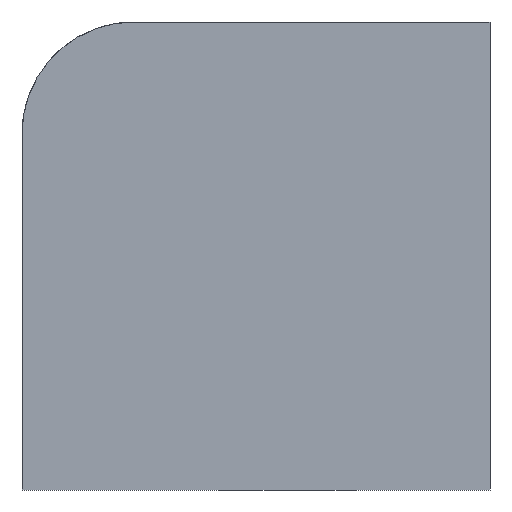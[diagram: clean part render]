
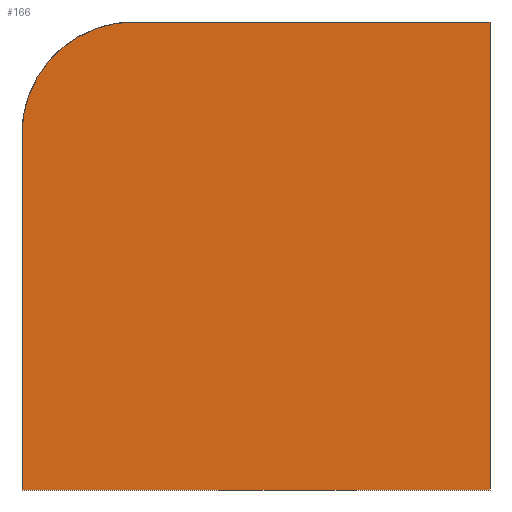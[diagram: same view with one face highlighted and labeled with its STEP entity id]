
A CAD part, front view. The second image highlights one B-rep face of the part: STEP entity #166.
In plain terms, the highlighted planar face has unit normal (0, -1, 0).
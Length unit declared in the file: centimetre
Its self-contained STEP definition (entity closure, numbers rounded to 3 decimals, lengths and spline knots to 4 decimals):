
#17 = LINE ( 'NONE', #745, #200 ) ;
#24 = DIRECTION ( 'NONE',  ( 0., 1., 0. ) ) ;
#89 = DIRECTION ( 'NONE',  ( 1., 0., 0. ) ) ;
#104 = VERTEX_POINT ( 'NONE', #1084 ) ;
#113 = FACE_OUTER_BOUND ( 'NONE', #976, .T. ) ;
#157 = VECTOR ( 'NONE', #809, 100. ) ;
#166 = ADVANCED_FACE ( 'NONE', ( #113 ), #649, .F. ) ;
#184 = CARTESIAN_POINT ( 'NONE',  ( 0., 0., 1000. ) ) ;
#200 = VECTOR ( 'NONE', #1119, 100. ) ;
#205 = VERTEX_POINT ( 'NONE', #661 ) ;
#258 = CARTESIAN_POINT ( 'NONE',  ( 1000., 0., 0. ) ) ;
#288 = CARTESIAN_POINT ( 'NONE',  ( 238.8632, 0., 761.1368 ) ) ;
#289 = EDGE_CURVE ( 'NONE', #104, #748, #917, .T. ) ;
#296 = ORIENTED_EDGE ( 'NONE', *, *, #289, .T. ) ;
#304 = VERTEX_POINT ( 'NONE', #654 ) ;
#401 = ORIENTED_EDGE ( 'NONE', *, *, #991, .F. ) ;
#425 = AXIS2_PLACEMENT_3D ( 'NONE', #288, #1121, #742 ) ;
#454 = CARTESIAN_POINT ( 'NONE',  ( 0., 0., 1000. ) ) ;
#473 = ORIENTED_EDGE ( 'NONE', *, *, #1044, .T. ) ;
#474 = VECTOR ( 'NONE', #1091, 100. ) ;
#518 = ORIENTED_EDGE ( 'NONE', *, *, #1028, .T. ) ;
#543 = LINE ( 'NONE', #709, #618 ) ;
#547 = LINE ( 'NONE', #454, #474 ) ;
#614 = VERTEX_POINT ( 'NONE', #258 ) ;
#618 = VECTOR ( 'NONE', #89, 100. ) ;
#649 = PLANE ( 'NONE',  #877 ) ;
#654 = CARTESIAN_POINT ( 'NONE',  ( 0., 0., 0. ) ) ;
#661 = CARTESIAN_POINT ( 'NONE',  ( 1000., 0., 1000. ) ) ;
#709 = CARTESIAN_POINT ( 'NONE',  ( 0., 0., 0. ) ) ;
#735 = CARTESIAN_POINT ( 'NONE',  ( 0., 0., 761.1368 ) ) ;
#742 = DIRECTION ( 'NONE',  ( 0., 0., 1. ) ) ;
#745 = CARTESIAN_POINT ( 'NONE',  ( 1000., 0., 1000. ) ) ;
#748 = VERTEX_POINT ( 'NONE', #735 ) ;
#758 = DIRECTION ( 'NONE',  ( 0., 0., 1. ) ) ;
#792 = EDGE_CURVE ( 'NONE', #205, #614, #17, .T. ) ;
#809 = DIRECTION ( 'NONE',  ( 1., 0., 0. ) ) ;
#877 = AXIS2_PLACEMENT_3D ( 'NONE', #936, #24, #758 ) ;
#917 = CIRCLE ( 'NONE', #425, 238.8632 ) ;
#936 = CARTESIAN_POINT ( 'NONE',  ( 0., 0., 1000. ) ) ;
#976 = EDGE_LOOP ( 'NONE', ( #401, #296, #518, #473, #1157 ) ) ;
#991 = EDGE_CURVE ( 'NONE', #104, #205, #1083, .T. ) ;
#1028 = EDGE_CURVE ( 'NONE', #748, #304, #547, .T. ) ;
#1044 = EDGE_CURVE ( 'NONE', #304, #614, #543, .T. ) ;
#1083 = LINE ( 'NONE', #184, #157 ) ;
#1084 = CARTESIAN_POINT ( 'NONE',  ( 238.8632, 0., 1000. ) ) ;
#1091 = DIRECTION ( 'NONE',  ( 0., 0., -1. ) ) ;
#1119 = DIRECTION ( 'NONE',  ( 0., 0., -1. ) ) ;
#1121 = DIRECTION ( 'NONE',  ( 0., -1., 0. ) ) ;
#1157 = ORIENTED_EDGE ( 'NONE', *, *, #792, .F. ) ;
